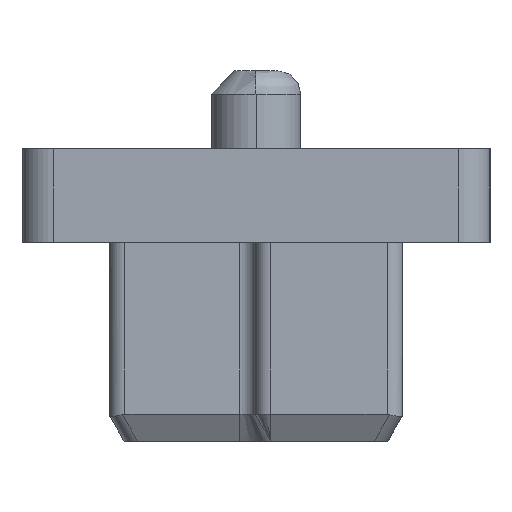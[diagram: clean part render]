
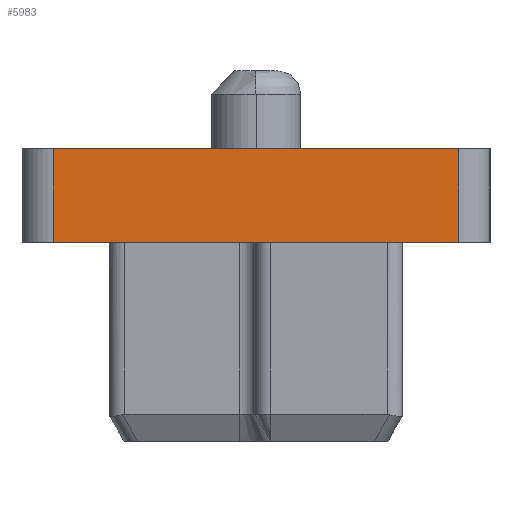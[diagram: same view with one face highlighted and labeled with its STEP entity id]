
A CAD part, left-side view. The second image highlights one B-rep face of the part: STEP entity #5983.
In plain terms, the highlighted planar face has unit normal (-1, 0, 0).
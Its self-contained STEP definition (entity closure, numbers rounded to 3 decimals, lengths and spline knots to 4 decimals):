
#2108 = ORIENTED_EDGE ( 'NONE', *, *, #91834, .T. ) ;
#3015 = VECTOR ( 'NONE', #49360, 1000. ) ;
#5983 = ADVANCED_FACE ( 'NONE', ( #64516 ), #17885, .F. ) ;
#6299 = VERTEX_POINT ( 'NONE', #89945 ) ;
#7907 = VECTOR ( 'NONE', #88462, 1000. ) ;
#15231 = VECTOR ( 'NONE', #35830, 1000. ) ;
#16428 = EDGE_CURVE ( 'NONE', #35148, #102387, #22883, .T. ) ;
#17848 = CARTESIAN_POINT ( 'NONE',  ( -4.825, 4.48, -1.1 ) ) ;
#17885 = PLANE ( 'NONE',  #85645 ) ;
#22883 = LINE ( 'NONE', #98244, #7907 ) ;
#35148 = VERTEX_POINT ( 'NONE', #45654 ) ;
#35830 = DIRECTION ( 'NONE',  ( 0., 0., -1. ) ) ;
#41976 = CARTESIAN_POINT ( 'NONE',  ( -4.825, 4.48, -1.1 ) ) ;
#43707 = LINE ( 'NONE', #111064, #46931 ) ;
#44653 = EDGE_CURVE ( 'NONE', #6299, #70840, #107568, .T. ) ;
#45654 = CARTESIAN_POINT ( 'NONE',  ( -4.825, -0.72, -1.1 ) ) ;
#46931 = VECTOR ( 'NONE', #90859, 1000. ) ;
#49360 = DIRECTION ( 'NONE',  ( 0., -1., 0. ) ) ;
#55294 = CARTESIAN_POINT ( 'NONE',  ( -4.825, 1.88, -0.5 ) ) ;
#58181 = DIRECTION ( 'NONE',  ( 0., 1., 0. ) ) ;
#64516 = FACE_OUTER_BOUND ( 'NONE', #85302, .T. ) ;
#67024 = ORIENTED_EDGE ( 'NONE', *, *, #68988, .T. ) ;
#68988 = EDGE_CURVE ( 'NONE', #70840, #35148, #114901, .T. ) ;
#69785 = DIRECTION ( 'NONE',  ( 1., 0., 0. ) ) ;
#70840 = VERTEX_POINT ( 'NONE', #17848 ) ;
#74289 = CARTESIAN_POINT ( 'NONE',  ( -4.825, -0.72, 0.1 ) ) ;
#82398 = CARTESIAN_POINT ( 'NONE',  ( -4.825, 4.48, 0.1 ) ) ;
#85302 = EDGE_LOOP ( 'NONE', ( #99505, #2108, #106798, #67024 ) ) ;
#85645 = AXIS2_PLACEMENT_3D ( 'NONE', #55294, #69785, #58181 ) ;
#88462 = DIRECTION ( 'NONE',  ( 0., 0., 1. ) ) ;
#89945 = CARTESIAN_POINT ( 'NONE',  ( -4.825, 4.48, 0.1 ) ) ;
#90859 = DIRECTION ( 'NONE',  ( 0., 1., 0. ) ) ;
#91834 = EDGE_CURVE ( 'NONE', #102387, #6299, #43707, .T. ) ;
#98244 = CARTESIAN_POINT ( 'NONE',  ( -4.825, -0.72, -1.1 ) ) ;
#99505 = ORIENTED_EDGE ( 'NONE', *, *, #16428, .T. ) ;
#102387 = VERTEX_POINT ( 'NONE', #74289 ) ;
#106798 = ORIENTED_EDGE ( 'NONE', *, *, #44653, .T. ) ;
#107568 = LINE ( 'NONE', #82398, #15231 ) ;
#111064 = CARTESIAN_POINT ( 'NONE',  ( -4.825, -0.72, 0.1 ) ) ;
#114901 = LINE ( 'NONE', #41976, #3015 ) ;
